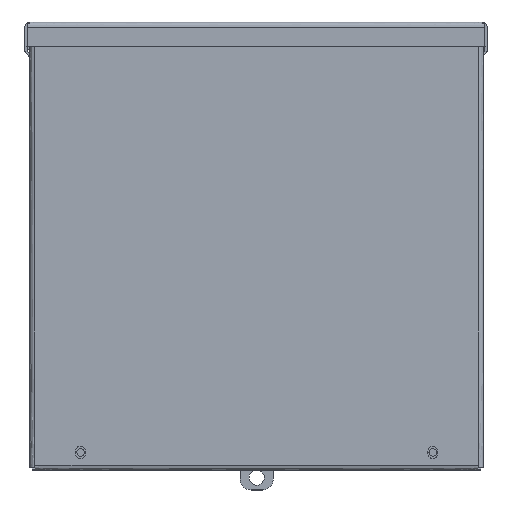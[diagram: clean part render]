
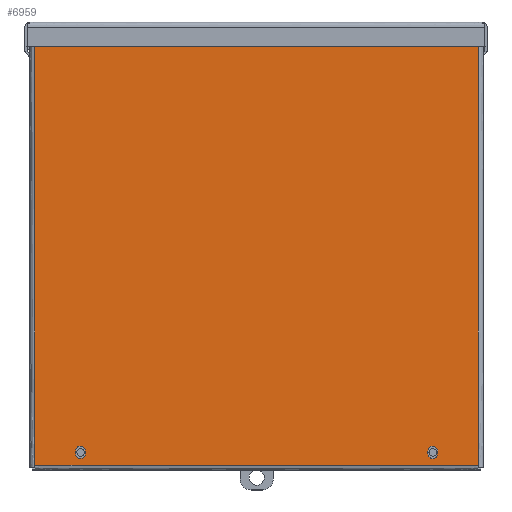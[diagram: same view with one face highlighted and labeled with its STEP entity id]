
A CAD part, top view. The second image highlights one B-rep face of the part: STEP entity #6959.
In plain terms, the highlighted free-form (B-spline) face has degree [1, 1] with [2, 2] control points.
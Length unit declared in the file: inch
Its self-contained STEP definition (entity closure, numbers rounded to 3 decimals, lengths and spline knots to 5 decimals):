
#6174=CARTESIAN_POINT('V71',(0.9855,-0.055,
   9.622));
#6175=VERTEX_POINT('V71',#6174);
#6183=CARTESIAN_POINT('V74',(1.2045,-0.055,
   9.622));
#6184=VERTEX_POINT('V74',#6183);
#6185=CARTESIAN_POINT('E88',(1.2045,-0.055,
   9.622));
#6186=CARTESIAN_POINT('E88',(1.2045,-0.055,
   9.5125));
#6187=CARTESIAN_POINT('E88',(1.095,-0.055,
   9.5125));
#6188=CARTESIAN_POINT('E88',(0.9855,-0.055,
   9.5125));
#6189=CARTESIAN_POINT('E88',(0.9855,-0.055,
   9.622));
#6197=(BOUNDED_CURVE()B_SPLINE_CURVE(2,(#6185,#6186,#6187,#6188,
   #6189),.CIRCULAR_ARC.,.F.,.U.)B_SPLINE_CURVE_WITH_KNOTS((3,2,3),
   (0.0,0.5,1.0),.UNSPECIFIED.)CURVE()
   GEOMETRIC_REPRESENTATION_ITEM()RATIONAL_B_SPLINE_CURVE((1.0,
   0.707,1.0,0.707,1.0))REPRESENTATION_ITEM(
   'E88'));
#6198=EDGE_CURVE('E88',#6184,#6175,#6197,.T.);
#6231=CARTESIAN_POINT('V73',(1.2045,-0.055,
   9.684));
#6232=VERTEX_POINT('V73',#6231);
#6233=CARTESIAN_POINT('E87',(1.2045,-0.055,
   9.684));
#6234=CARTESIAN_POINT('E87',(1.2045,-0.055,
   9.622));
#6235=QUASI_UNIFORM_CURVE('E87',1,(#6233,#6234),.POLYLINE_FORM.,.F.,
   .U.);
#6236=EDGE_CURVE('E87',#6232,#6184,#6235,.T.);
#6272=CARTESIAN_POINT('V72',(0.9855,-0.055,
   9.684));
#6273=VERTEX_POINT('V72',#6272);
#6274=CARTESIAN_POINT('E86',(0.9855,-0.055,
   9.684));
#6275=CARTESIAN_POINT('E86',(0.9855,-0.055,
   9.7935));
#6276=CARTESIAN_POINT('E86',(1.095,-0.055,
   9.7935));
#6277=CARTESIAN_POINT('E86',(1.2045,-0.055,
   9.7935));
#6278=CARTESIAN_POINT('E86',(1.2045,-0.055,
   9.684));
#6286=(BOUNDED_CURVE()B_SPLINE_CURVE(2,(#6274,#6275,#6276,#6277,
   #6278),.CIRCULAR_ARC.,.F.,.U.)B_SPLINE_CURVE_WITH_KNOTS((3,2,3),
   (0.0,0.5,1.0),.UNSPECIFIED.)CURVE()
   GEOMETRIC_REPRESENTATION_ITEM()RATIONAL_B_SPLINE_CURVE((1.0,
   0.707,1.0,0.707,1.0))REPRESENTATION_ITEM(
   'E86'));
#6287=EDGE_CURVE('E86',#6273,#6232,#6286,.T.);
#6320=CARTESIAN_POINT('E85',(0.9855,-0.055,
   9.622));
#6321=CARTESIAN_POINT('E85',(0.9855,-0.055,
   9.684));
#6322=QUASI_UNIFORM_CURVE('E85',1,(#6320,#6321),.POLYLINE_FORM.,.F.,
   .U.);
#6323=EDGE_CURVE('E85',#6175,#6273,#6322,.T.);
#6352=CARTESIAN_POINT('V67',(9.2045,-0.055,
   9.684));
#6353=VERTEX_POINT('V67',#6352);
#6361=CARTESIAN_POINT('V70',(8.9855,-0.055,
   9.684));
#6362=VERTEX_POINT('V70',#6361);
#6363=CARTESIAN_POINT('E84',(8.9855,-0.055,
   9.684));
#6364=CARTESIAN_POINT('E84',(8.9855,-0.055,
   9.7935));
#6365=CARTESIAN_POINT('E84',(9.095,-0.055,
   9.7935));
#6366=CARTESIAN_POINT('E84',(9.2045,-0.055,
   9.7935));
#6367=CARTESIAN_POINT('E84',(9.2045,-0.055,
   9.684));
#6375=(BOUNDED_CURVE()B_SPLINE_CURVE(2,(#6363,#6364,#6365,#6366,
   #6367),.CIRCULAR_ARC.,.F.,.U.)B_SPLINE_CURVE_WITH_KNOTS((3,2,3),
   (0.0,0.5,1.0),.UNSPECIFIED.)CURVE()
   GEOMETRIC_REPRESENTATION_ITEM()RATIONAL_B_SPLINE_CURVE((1.0,
   0.707,1.0,0.707,1.0))REPRESENTATION_ITEM(
   'E84'));
#6376=EDGE_CURVE('E84',#6362,#6353,#6375,.T.);
#6409=CARTESIAN_POINT('V69',(8.9855,-0.055,
   9.622));
#6410=VERTEX_POINT('V69',#6409);
#6411=CARTESIAN_POINT('E83',(8.9855,-0.055,
   9.622));
#6412=CARTESIAN_POINT('E83',(8.9855,-0.055,
   9.684));
#6413=QUASI_UNIFORM_CURVE('E83',1,(#6411,#6412),.POLYLINE_FORM.,.F.,
   .U.);
#6414=EDGE_CURVE('E83',#6410,#6362,#6413,.T.);
#6450=CARTESIAN_POINT('V68',(9.2045,-0.055,
   9.622));
#6451=VERTEX_POINT('V68',#6450);
#6452=CARTESIAN_POINT('E82',(9.2045,-0.055,
   9.622));
#6453=CARTESIAN_POINT('E82',(9.2045,-0.055,
   9.5125));
#6454=CARTESIAN_POINT('E82',(9.095,-0.055,
   9.5125));
#6455=CARTESIAN_POINT('E82',(8.9855,-0.055,
   9.5125));
#6456=CARTESIAN_POINT('E82',(8.9855,-0.055,
   9.622));
#6464=(BOUNDED_CURVE()B_SPLINE_CURVE(2,(#6452,#6453,#6454,#6455,
   #6456),.CIRCULAR_ARC.,.F.,.U.)B_SPLINE_CURVE_WITH_KNOTS((3,2,3),
   (0.0,0.5,1.0),.UNSPECIFIED.)CURVE()
   GEOMETRIC_REPRESENTATION_ITEM()RATIONAL_B_SPLINE_CURVE((1.0,
   0.707,1.0,0.707,1.0))REPRESENTATION_ITEM(
   'E82'));
#6465=EDGE_CURVE('E82',#6451,#6410,#6464,.T.);
#6498=CARTESIAN_POINT('E81',(9.2045,-0.055,
   9.684));
#6499=CARTESIAN_POINT('E81',(9.2045,-0.055,
   9.622));
#6500=QUASI_UNIFORM_CURVE('E81',1,(#6498,#6499),.POLYLINE_FORM.,.F.,
   .U.);
#6501=EDGE_CURVE('E81',#6353,#6451,#6500,.T.);
#6856=CARTESIAN_POINT('V44',(0.06,-0.055,
   9.945));
#6857=VERTEX_POINT('V44',#6856);
#6894=CARTESIAN_POINT('V45',(0.06,-0.055,
   0.0));
#6895=VERTEX_POINT('V45',#6894);
#6896=CARTESIAN_POINT('E52',(0.06,-0.055,
   0.0));
#6897=CARTESIAN_POINT('E52',(0.06,-0.055,
   9.945));
#6898=QUASI_UNIFORM_CURVE('E52',1,(#6896,#6897),.POLYLINE_FORM.,.F.,
   .U.);
#6899=EDGE_CURVE('E52',#6895,#6857,#6898,.T.);
#6920=CARTESIAN_POINT('F21',(10.13,-0.055,
   0.0));
#6921=CARTESIAN_POINT('F21',(10.13,-0.055,
   9.945));
#6922=CARTESIAN_POINT('F21',(0.06,-0.055,
   0.0));
#6923=CARTESIAN_POINT('F21',(0.06,-0.055,
   9.945));
#6924=B_SPLINE_SURFACE_WITH_KNOTS('F21',1,1,((#6920,#6922),(#6921,
   #6923)),.PLANE_SURF.,.F.,.F.,.U.,(2,2),(2,2),(
   0.00012,0.99988),(0.00012,
   0.99988),.UNSPECIFIED.);
#6925=CARTESIAN_POINT('V41',(10.13,-0.055,
   0.0));
#6926=VERTEX_POINT('V41',#6925);
#6927=CARTESIAN_POINT('E80',(0.06,-0.055,
   0.0));
#6928=CARTESIAN_POINT('E80',(10.13,-0.055,
   0.0));
#6929=QUASI_UNIFORM_CURVE('E80',1,(#6927,#6928),.POLYLINE_FORM.,.F.,
   .U.);
#6930=EDGE_CURVE('E80',#6895,#6926,#6929,.T.);
#6931=ORIENTED_EDGE('E80',*,*,#6930,.T.);
#6932=CARTESIAN_POINT('V40',(10.13,-0.055,
   9.945));
#6933=VERTEX_POINT('V40',#6932);
#6934=CARTESIAN_POINT('E48',(10.13,-0.055,
   9.945));
#6935=CARTESIAN_POINT('E48',(10.13,-0.055,
   0.0));
#6936=QUASI_UNIFORM_CURVE('E48',1,(#6934,#6935),.POLYLINE_FORM.,.F.,
   .U.);
#6937=EDGE_CURVE('E48',#6933,#6926,#6936,.T.);
#6938=ORIENTED_EDGE('E48',*,*,#6937,.F.);
#6939=CARTESIAN_POINT('E60',(0.06,-0.055,
   9.945));
#6940=CARTESIAN_POINT('E60',(10.13,-0.055,
   9.945));
#6941=QUASI_UNIFORM_CURVE('E60',1,(#6939,#6940),.POLYLINE_FORM.,.F.,
   .U.);
#6942=EDGE_CURVE('E60',#6857,#6933,#6941,.T.);
#6943=ORIENTED_EDGE('E60',*,*,#6942,.F.);
#6944=ORIENTED_EDGE('E52',*,*,#6899,.F.);
#6945=EDGE_LOOP('F21',(#6931,#6938,#6943,#6944));
#6946=FACE_OUTER_BOUND('F21',#6945,.T.);
#6947=ORIENTED_EDGE('E81',*,*,#6501,.T.);
#6948=ORIENTED_EDGE('E82',*,*,#6465,.T.);
#6949=ORIENTED_EDGE('E83',*,*,#6414,.T.);
#6950=ORIENTED_EDGE('E84',*,*,#6376,.T.);
#6951=EDGE_LOOP('F21',(#6947,#6948,#6949,#6950));
#6952=FACE_BOUND('F21',#6951,.T.);
#6953=ORIENTED_EDGE('E85',*,*,#6323,.T.);
#6954=ORIENTED_EDGE('E86',*,*,#6287,.T.);
#6955=ORIENTED_EDGE('E87',*,*,#6236,.T.);
#6956=ORIENTED_EDGE('E88',*,*,#6198,.T.);
#6957=EDGE_LOOP('F21',(#6953,#6954,#6955,#6956));
#6958=FACE_BOUND('F21',#6957,.T.);
#6959=ADVANCED_FACE('F21',(#6946,#6952,#6958),#6924,.T.);
